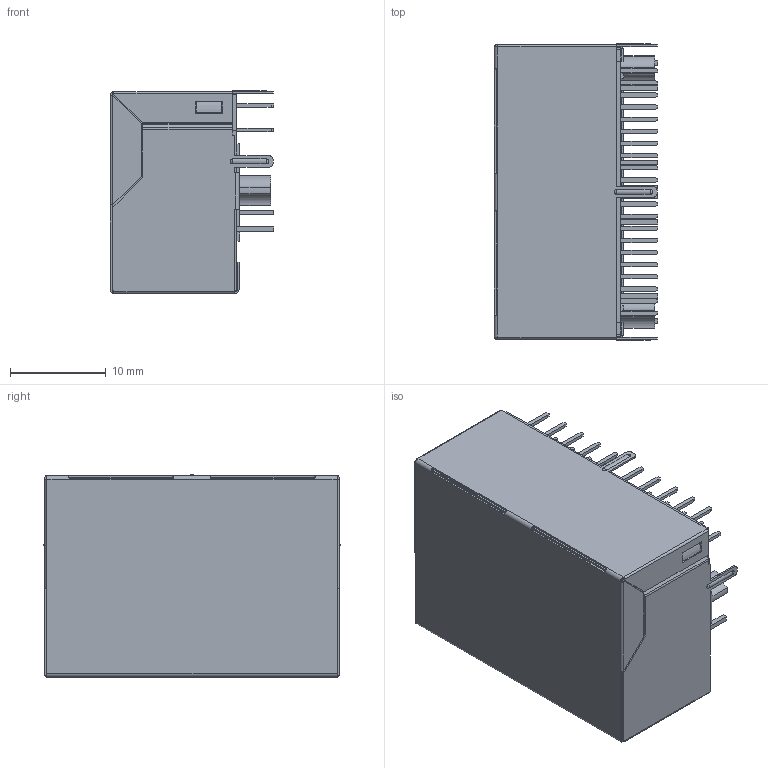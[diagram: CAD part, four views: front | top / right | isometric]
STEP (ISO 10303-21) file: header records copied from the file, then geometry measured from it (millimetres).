
FILE_DESCRIPTION((''),'2;1');
FILE_NAME('DGKYD112Q070AE4A1D3YT','2024-09-09T16:05:15',('DGKYD'),(''),'CREO PARAMETRIC BY PTC INC, 2019010','CREO PARAMETRIC BY PTC INC, 2019010','');
FILE_SCHEMA(('CONFIG_CONTROL_DESIGN'));
Products named in the file (1): DGKYD112Q070AE4A1D3YT
Bounding box: 17.15 x 31 x 21.2 mm (x, y, z)
Volume: 3546.3 mm3; surface area: 12708.2 mm2
Topology: 1 solids, 2 shells, 2274 faces, 7050 edges, 4608 vertices
Faces by surface type: plane 1812, cylinder 444, sphere 12, bspline 6
Entity records: 78624 total; most frequent: CARTESIAN_POINT 14313, ORIENTED_EDGE 14092, DIRECTION 12830, EDGE_CURVE 7050, VECTOR 5788, LINE 5788, VERTEX_POINT 4608, AXIS2_PLACEMENT_3D 3521
